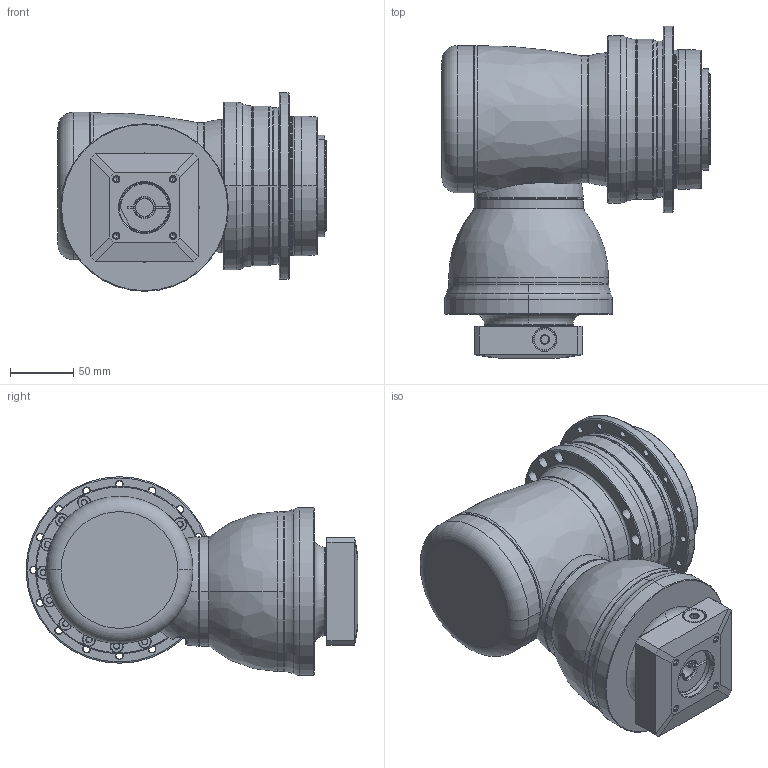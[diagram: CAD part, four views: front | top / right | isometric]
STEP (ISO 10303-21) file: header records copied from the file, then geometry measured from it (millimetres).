
FILE_DESCRIPTION((''),'2;1');
FILE_NAME('AHK110_2ST_14-P0409310101_ASM','2016-09-22T',('d01943'),(''),'PRO/ENGINEER BY PARAMETRIC TECHNOLOGY CORPORATION, 2008410','PRO/ENGINEER BY PARAMETRIC TECHNOLOGY CORPORATION, 2008410','');
FILE_SCHEMA(('CONFIG_CONTROL_DESIGN'));
Length unit declared in the file: millimetre
Products named in the file (12): P1008400002; P1802400011; P0278400003; P0359400003; P1315400001; P1007400001; P1318400601; P0503300006; P0912406201; P0409310101; 21711412017; AHK110_2ST_14-P0409310101_ASM
Assembly tree (11 placements, depth 2):
  AHK110_2ST_14-P0409310101_ASM
    P1008400002
    P1802400011
    P0278400003
    P0359400003
    P1315400001
    P1007400001
    P1318400601
    P0503300006
    P0912406201
    P0409310101
    21711412017
Bounding box: 211.3 x 261.5 x 156.5 mm (x, y, z)
Volume: 2484934.4 mm3; surface area: 392855.9 mm2
Topology: 12 solids, 12 shells, 1025 faces, 2272 edges, 1317 vertices
Faces by surface type: cylinder 368, cone 344, plane 147, torus 124, bspline 40, sphere 2
Entity records: 33765 total; most frequent: CARTESIAN_POINT 10559, DIRECTION 5332, ORIENTED_EDGE 4404, AXIS2_PLACEMENT_3D 2275, EDGE_CURVE 2202, VERTEX_POINT 1317, CIRCLE 1267, EDGE_LOOP 1219
